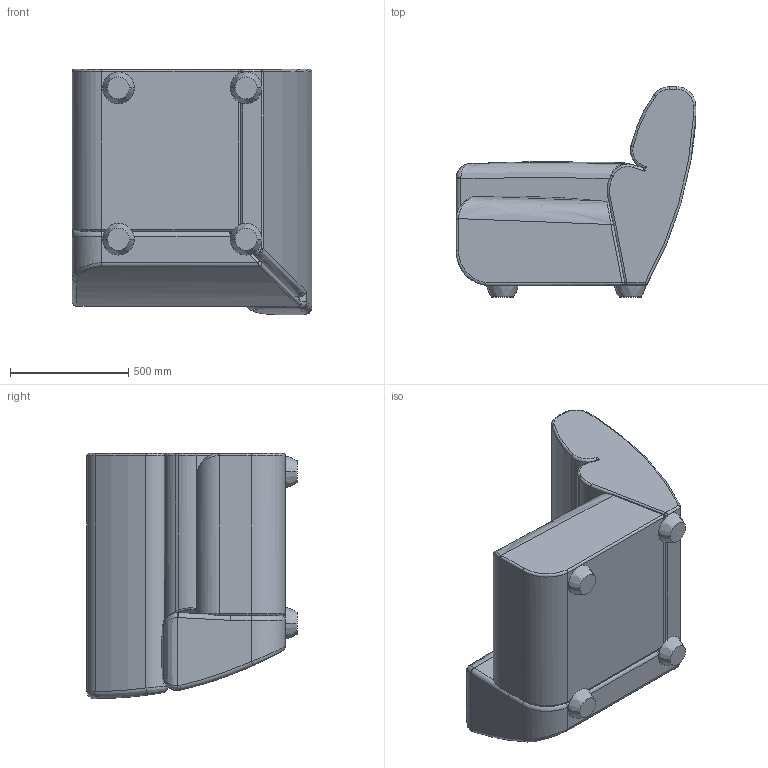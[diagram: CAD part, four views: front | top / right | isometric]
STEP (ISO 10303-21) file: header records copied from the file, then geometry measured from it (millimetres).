
FILE_DESCRIPTION(/* description */ (''),/* implementation_level */ '2;1');
FILE_NAME(/* name */ 'S:\DRAWINGS\DRAWING OFFICE ONLY\WIP\1298 Snug with Arm\1SG-0001-01 Snug with Right Arm\Marketing and Sales Files\Simplified STEP\1SG-0001 Snug with Right Arm (Simplify).stp',/* time_stamp */ '2025-08-14T10:38:06+01:00',/* author */ ('Mark.Glazzard'),/* organization */ (''),/* preprocessor_version */ 'ST-DEVELOPER v18.1',/* originating_system */ 'Autodesk Inventor 2022',/* authorisation */ '');
FILE_SCHEMA (('AUTOMOTIVE_DESIGN { 1 0 10303 214 3 1 1 }'));
Length unit declared in the file: inch
Products named in the file (1): 1SG-0001 Snug with Right Arm (Simplify)
Bounding box: 1013.67 x 888.52 x 1036.74 mm (x, y, z)
Volume: 447654100.8 mm3; surface area: 5693013.2 mm2
Topology: 7 solids, 7 shells, 135 faces, 301 edges, 171 vertices
Faces by surface type: bspline 48, cylinder 40, plane 31, torus 13, sphere 3
Entity records: 10518 total; most frequent: CARTESIAN_POINT 7681, ORIENTED_EDGE 584, DIRECTION 488, EDGE_CURVE 292, AXIS2_PLACEMENT_3D 196, VERTEX_POINT 171, STYLED_ITEM 142, FACE_OUTER_BOUND 135
